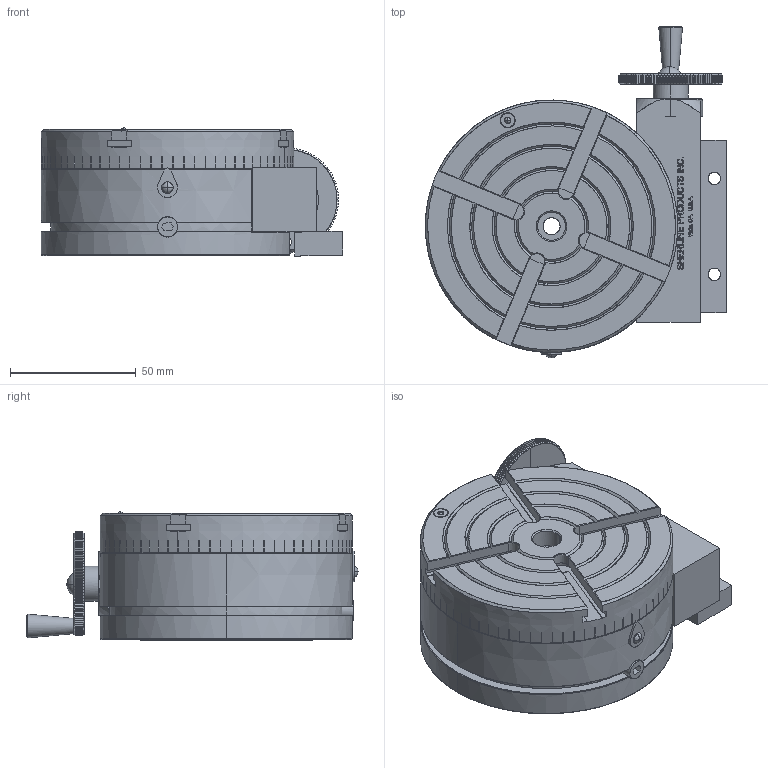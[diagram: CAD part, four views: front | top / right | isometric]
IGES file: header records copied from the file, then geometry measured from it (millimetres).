
Start section: Comment
Global section: file name: 37121_op rotary HW table.igs; native system:  By Spatial Corp.; preprocessor: XPlus PS/IGES 3.0; author: sherline; organization: Title; date: 20220901.094543; units: inch
Bounding box: 119.78 x 131.98 x 50.96 mm (x, y, z)
Surface area: 83418.1 mm2 (no closed solid volume)
Topology: 0 solids, 0 shells, 1953 faces, 11184 edges, 11156 vertices
Faces by surface type: extrusion 1187, revolution 758, bspline 8
